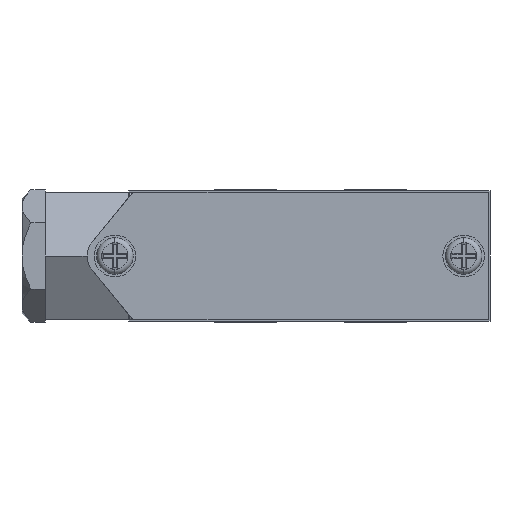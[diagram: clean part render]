
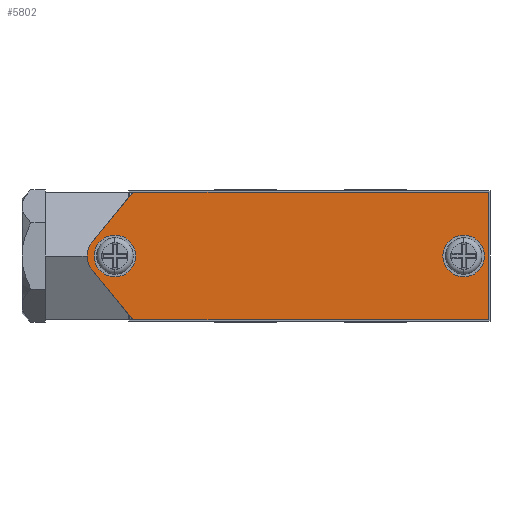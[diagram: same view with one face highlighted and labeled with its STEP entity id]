
A CAD part, front view. The second image highlights one B-rep face of the part: STEP entity #5802.
In plain terms, the highlighted planar face has unit normal (0, -1, 0).
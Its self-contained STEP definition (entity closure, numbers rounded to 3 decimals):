
#300 = EDGE_LOOP ( 'NONE', ( #2669, #2671 ) ) ;
#301 = EDGE_LOOP ( 'NONE', ( #2668, #2672 ) ) ;
#302 = EDGE_LOOP ( 'NONE', ( #2670, #2674, #2673, #2675, #2676, #2677 ) ) ;
#718 = VERTEX_POINT ( 'NONE', #3013 ) ;
#729 = VERTEX_POINT ( 'NONE', #3024 ) ;
#764 = VERTEX_POINT ( 'NONE', #3059 ) ;
#888 = VERTEX_POINT ( 'NONE', #3183 ) ;
#891 = VERTEX_POINT ( 'NONE', #3186 ) ;
#900 = VERTEX_POINT ( 'NONE', #3195 ) ;
#906 = VERTEX_POINT ( 'NONE', #3201 ) ;
#916 = VERTEX_POINT ( 'NONE', #3211 ) ;
#922 = VERTEX_POINT ( 'NONE', #3217 ) ;
#923 = VERTEX_POINT ( 'NONE', #3218 ) ;
#1174 = AXIS2_PLACEMENT_3D ( 'NONE', #4767, #4771, #4772 ) ;
#1292 = AXIS2_PLACEMENT_3D ( 'NONE', #4282, #4283, #4284 ) ;
#1395 = FACE_BOUND ( 'NONE', #301, .T. ) ;
#1410 = AXIS2_PLACEMENT_3D ( 'NONE', #2245, #2246, #2247 ) ;
#1548 = FACE_BOUND ( 'NONE', #300, .T. ) ;
#1689 = FACE_OUTER_BOUND ( 'NONE', #302, .T. ) ;
#2244 = PLANE ( 'NONE',  #1410 ) ;
#2245 = CARTESIAN_POINT ( 'NONE',  ( 0., 0., 0. ) ) ;
#2246 = DIRECTION ( 'NONE',  ( 0., -1., 0. ) ) ;
#2247 = DIRECTION ( 'NONE',  ( 0., 0., -1. ) ) ;
#2668 = ORIENTED_EDGE ( 'NONE', *, *, #5302, .F. ) ;
#2669 = ORIENTED_EDGE ( 'NONE', *, *, #5303, .F. ) ;
#2670 = ORIENTED_EDGE ( 'NONE', *, *, #5300, .F. ) ;
#2671 = ORIENTED_EDGE ( 'NONE', *, *, #5415, .F. ) ;
#2672 = ORIENTED_EDGE ( 'NONE', *, *, #5555, .F. ) ;
#2673 = ORIENTED_EDGE ( 'NONE', *, *, #5299, .T. ) ;
#2674 = ORIENTED_EDGE ( 'NONE', *, *, #5301, .F. ) ;
#2675 = ORIENTED_EDGE ( 'NONE', *, *, #5298, .T. ) ;
#2676 = ORIENTED_EDGE ( 'NONE', *, *, #5297, .T. ) ;
#2677 = ORIENTED_EDGE ( 'NONE', *, *, #5296, .F. ) ;
#3013 = CARTESIAN_POINT ( 'NONE',  ( 34.15, 0., -12.25 ) ) ;
#3024 = CARTESIAN_POINT ( 'NONE',  ( -37.6, 0., 4. ) ) ;
#3059 = CARTESIAN_POINT ( 'NONE',  ( 34.15, 0., 12.25 ) ) ;
#3183 = CARTESIAN_POINT ( 'NONE',  ( -42.054, 0., 2.523 ) ) ;
#3186 = CARTESIAN_POINT ( 'NONE',  ( -42.054, 0., -2.523 ) ) ;
#3195 = CARTESIAN_POINT ( 'NONE',  ( -34.15, 0., 12.25 ) ) ;
#3201 = CARTESIAN_POINT ( 'NONE',  ( -34.15, 0., -12.25 ) ) ;
#3211 = CARTESIAN_POINT ( 'NONE',  ( -37.6, 0., -4. ) ) ;
#3217 = CARTESIAN_POINT ( 'NONE',  ( 29.4, 0., 4. ) ) ;
#3218 = CARTESIAN_POINT ( 'NONE',  ( 29.4, 0., -4. ) ) ;
#3569 = CARTESIAN_POINT ( 'NONE',  ( -38.95, 0., 0. ) ) ;
#3621 = LINE ( 'NONE', #3622, #3822 ) ;
#3622 = CARTESIAN_POINT ( 'NONE',  ( -34.15, 0., -12.25 ) ) ;
#3623 = DIRECTION ( 'NONE',  ( -1., 0., 0. ) ) ;
#3624 = LINE ( 'NONE', #3625, #3797 ) ;
#3625 = CARTESIAN_POINT ( 'NONE',  ( -42.054, 0., -2.523 ) ) ;
#3626 = DIRECTION ( 'NONE',  ( 0.631, 0., -0.776 ) ) ;
#3627 = DIRECTION ( 'NONE',  ( 0., -1., 0. ) ) ;
#3628 = DIRECTION ( 'NONE',  ( 0., 0., -1. ) ) ;
#3629 = CARTESIAN_POINT ( 'NONE',  ( 29.4, 0., 0. ) ) ;
#3630 = LINE ( 'NONE', #3631, #3839 ) ;
#3631 = CARTESIAN_POINT ( 'NONE',  ( -34.15, 0., 12.25 ) ) ;
#3632 = DIRECTION ( 'NONE',  ( -0.631, 0., -0.776 ) ) ;
#3633 = LINE ( 'NONE', #3634, #3776 ) ;
#3634 = CARTESIAN_POINT ( 'NONE',  ( 34.15, 0., 12.25 ) ) ;
#3635 = DIRECTION ( 'NONE',  ( 0., 0., -1. ) ) ;
#3636 = LINE ( 'NONE', #3637, #3818 ) ;
#3637 = CARTESIAN_POINT ( 'NONE',  ( -34.15, 0., 12.25 ) ) ;
#3638 = DIRECTION ( 'NONE',  ( 1., 0., 0. ) ) ;
#3639 = DIRECTION ( 'NONE',  ( 0., -1., 0. ) ) ;
#3640 = DIRECTION ( 'NONE',  ( 0., 0., -1. ) ) ;
#3641 = CARTESIAN_POINT ( 'NONE',  ( -37.6, 0., 0. ) ) ;
#3642 = DIRECTION ( 'NONE',  ( 0., -1., 0. ) ) ;
#3643 = DIRECTION ( 'NONE',  ( 0., 0., -1. ) ) ;
#3748 = AXIS2_PLACEMENT_3D ( 'NONE', #3641, #3642, #3643 ) ;
#3776 = VECTOR ( 'NONE', #3635, 1000. ) ;
#3797 = VECTOR ( 'NONE', #3626, 1000. ) ;
#3805 = AXIS2_PLACEMENT_3D ( 'NONE', #3569, #3627, #3628 ) ;
#3818 = VECTOR ( 'NONE', #3638, 1000. ) ;
#3820 = AXIS2_PLACEMENT_3D ( 'NONE', #3629, #3639, #3640 ) ;
#3822 = VECTOR ( 'NONE', #3623, 1000. ) ;
#3839 = VECTOR ( 'NONE', #3632, 1000. ) ;
#3945 = CIRCLE ( 'NONE', #1174, 4. ) ;
#3990 = CIRCLE ( 'NONE', #1292, 4. ) ;
#4282 = CARTESIAN_POINT ( 'NONE',  ( -37.6, 0., 0. ) ) ;
#4283 = DIRECTION ( 'NONE',  ( 0., -1., 0. ) ) ;
#4284 = DIRECTION ( 'NONE',  ( 0., 0., -1. ) ) ;
#4767 = CARTESIAN_POINT ( 'NONE',  ( 29.4, 0., 0. ) ) ;
#4771 = DIRECTION ( 'NONE',  ( 0., -1., 0. ) ) ;
#4772 = DIRECTION ( 'NONE',  ( 0., 0., -1. ) ) ;
#5181 = CIRCLE ( 'NONE', #3748, 4. ) ;
#5182 = CIRCLE ( 'NONE', #3820, 4. ) ;
#5183 = CIRCLE ( 'NONE', #3805, 4. ) ;
#5296 = EDGE_CURVE ( 'NONE', #718, #906, #3621, .T. ) ;
#5297 = EDGE_CURVE ( 'NONE', #891, #906, #3624, .T. ) ;
#5298 = EDGE_CURVE ( 'NONE', #888, #891, #5183, .T. ) ;
#5299 = EDGE_CURVE ( 'NONE', #900, #888, #3630, .T. ) ;
#5300 = EDGE_CURVE ( 'NONE', #764, #718, #3633, .T. ) ;
#5301 = EDGE_CURVE ( 'NONE', #900, #764, #3636, .T. ) ;
#5302 = EDGE_CURVE ( 'NONE', #923, #922, #5182, .T. ) ;
#5303 = EDGE_CURVE ( 'NONE', #916, #729, #5181, .T. ) ;
#5415 = EDGE_CURVE ( 'NONE', #729, #916, #3990, .T. ) ;
#5555 = EDGE_CURVE ( 'NONE', #922, #923, #3945, .T. ) ;
#5802 = ADVANCED_FACE ( 'NONE', ( #1548, #1395, #1689 ), #2244, .T. ) ;
